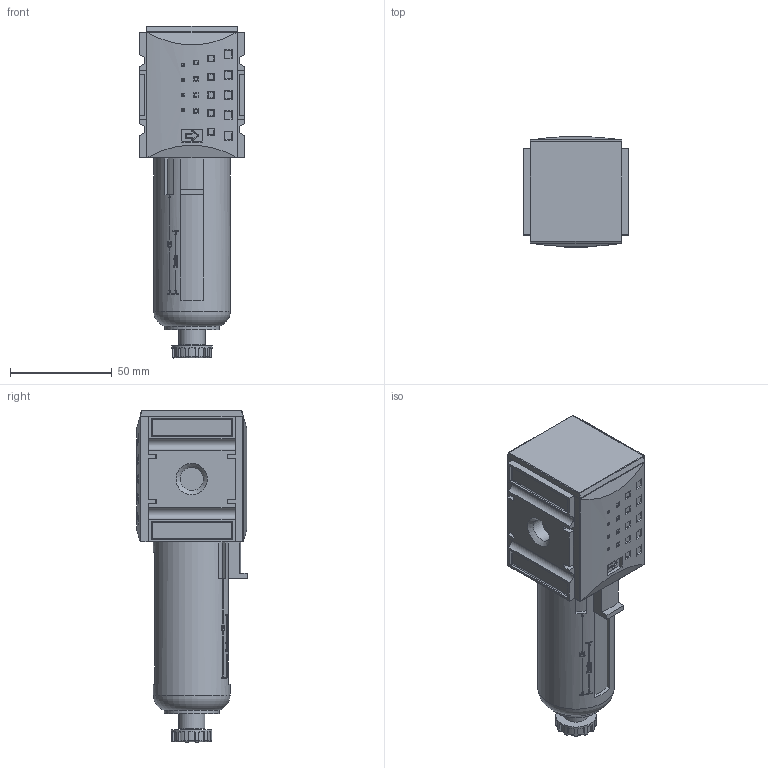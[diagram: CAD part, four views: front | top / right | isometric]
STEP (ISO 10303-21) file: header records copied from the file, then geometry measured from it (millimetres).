
FILE_DESCRIPTION((''),'2;1');
FILE_NAME('K:\ZEICHNG\Kunden Modelle\Step Modelle\AS2 BG1\Airtec Schweden\KFIL-114.stp','2010-01-29T13:12:25',('DDruske'),(''),'Autodesk Inventor 2009','Autodesk Inventor 2009','');
FILE_SCHEMA(('AUTOMOTIVE_DESIGN { 1 0 10303 214 1 1 1 1 }'));
Length unit declared in the file: millimetre
Products named in the file (5): Filter BG1; Kopfstück BG1 mit Manoanschluss; Behälter Filter BG1; Frontplatte BG1 Knocks; Abdeckung
Assembly tree (5 placements, depth 2):
  Filter BG1
    Kopfstück BG1 mit Manoanschluss
    Behälter Filter BG1
    Frontplatte BG1 Knocks  x2
    Abdeckung
Bounding box: 52 x 54.49 x 163.5 mm (x, y, z)
Volume: 242238.6 mm3; surface area: 55113 mm2
Topology: 6 solids, 6 shells, 1139 faces, 3033 edges, 1936 vertices
Faces by surface type: plane 409, cylinder 389, bspline 214, torus 115, sphere 8, cone 4
Full cylindrical faces by diameter (mm): 10 x1, 11.445 x3, 13 x1, 15.1 x1, 16.8 x1, 20 x1, 27 x1, 30 x1, 35 x1, 37.8 x1
Entity records: 30934 total; most frequent: CARTESIAN_POINT 10403, ORIENTED_EDGE 4402, DIRECTION 4029, EDGE_CURVE 2201, VERTEX_POINT 1426, AXIS2_PLACEMENT_3D 1425, VECTOR 1179, LINE 1179
